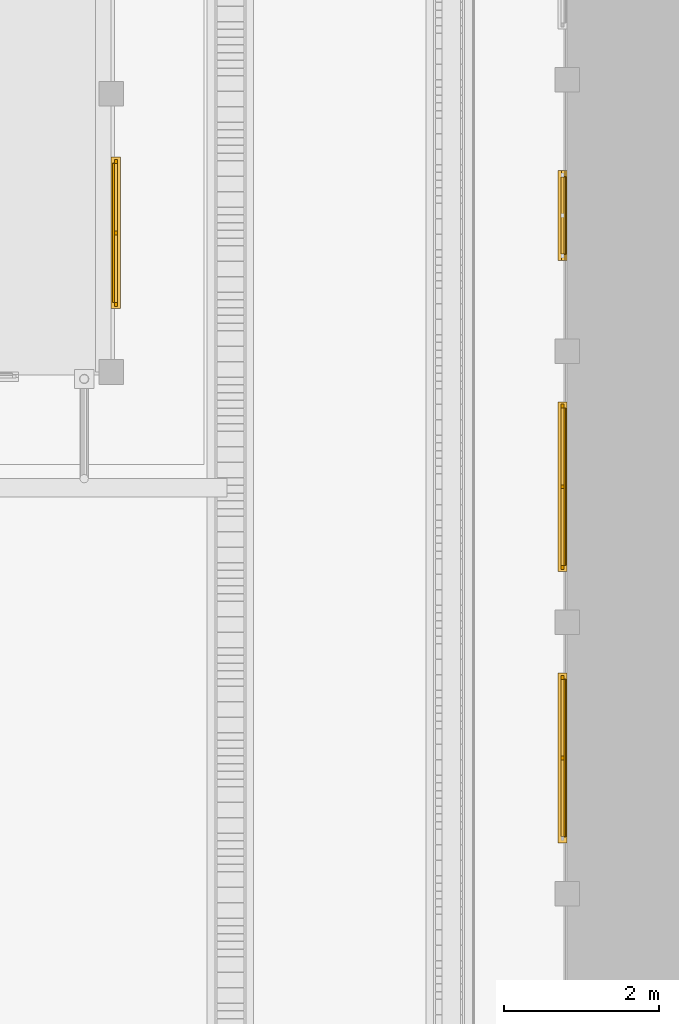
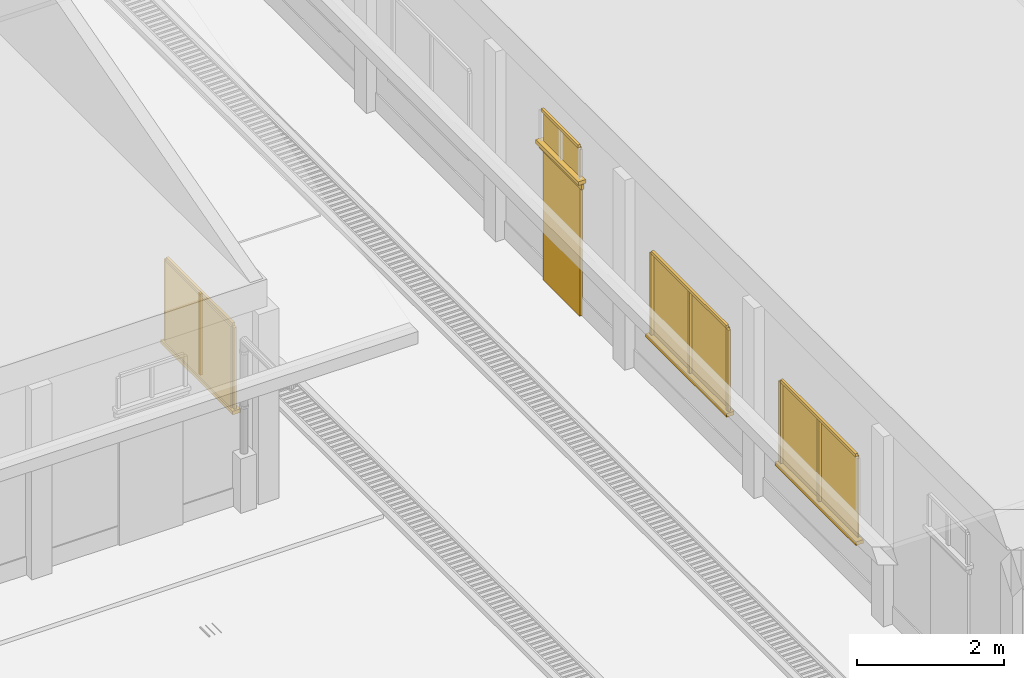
# One storey, part 61 of 151: 20 windows, 2 doors.
"""IFC2X3 building model written with IfcOpenShell, lengths in metres."""

from ifc_helpers import new_model, si_unit, origin, origin_with_axes, place, context, subcontext, project, spatial, faceted_brep, element, save


model = new_model("IFC2X3")

# Units and contexts
model_context = context("Model", 3, precision=1e-05, world=origin_with_axes())
body_context = subcontext(model_context, "Body", "Model", "MODEL_VIEW")
ifc_project = project(units=[si_unit("LENGTHUNIT", "METRE"), si_unit("AREAUNIT", "SQUARE_METRE"), si_unit("VOLUMEUNIT", "CUBIC_METRE"), si_unit("PLANEANGLEUNIT", "RADIAN")], contexts=[model_context])

# Site, building, storey
site_placement = place(None, origin_with_axes())
site = spatial("IfcSite", under=ifc_project, at=site_placement, Name="Predio Los Mangos - Morales, San Martín", CompositionType="ELEMENT")
building_placement = place(site_placement, origin())
building = spatial("IfcBuilding", under=site, at=building_placement, Name="Hogar de Refugio Temporal", CompositionType="ELEMENT")
storey_placement = place(building_placement, origin())
storey = spatial("IfcBuildingStorey", under=building, at=storey_placement, Name="NIVEL 1 (NPT +0.00)", CompositionType="ELEMENT", Elevation=0.0)

# Windows
window_1_placement = place(storey_placement, origin())
element("IfcWindow", 1, at=window_1_placement, inside=storey, Name="E-08_vg0_vid", ObjectType="Ventana", context=body_context, shape_type="Brep", body=[
    faceted_brep([(49.82, 117.9, 1.05), (49.82, 119.7, 1.05), (49.84, 119.7, 1.05), (49.84, 117.9, 1.05), (49.82, 117.9, 2.4), (49.84, 117.9, 2.4), (49.84, 119.7, 2.4), (49.82, 119.7, 2.4)], [[[0, 1, 2, 3]], [[4, 5, 6, 7]], [[0, 3, 5, 4]], [[3, 2, 6, 5]], [[2, 1, 7, 6]], [[1, 0, 4, 7]]]),
])
window_2_placement = place(storey_placement, origin())
element("IfcWindow", 2, at=window_2_placement, inside=storey, Name="E-08_vg0_m", ObjectType="Ventana", context=body_context, shape_type="Brep", body=[
    faceted_brep([(49.84, 117.85, 1.05), (49.84, 117.9, 1.05), (49.88, 117.9, 1.05), (49.88, 117.85, 1.05), (49.84, 117.85, 2.4), (49.88, 117.85, 2.4), (49.88, 117.9, 2.4), (49.84, 117.9, 2.4)], [[[0, 1, 2, 3]], [[4, 5, 6, 7]], [[0, 3, 5, 4]], [[3, 2, 6, 5]], [[2, 1, 7, 6]], [[1, 0, 4, 7]]]),
])
window_3_placement = place(storey_placement, origin())
element("IfcWindow", 3, at=window_3_placement, inside=storey, Name="E-08_vg0_m", ObjectType="Ventana", context=body_context, shape_type="Brep", body=[
    faceted_brep([(49.84, 119.7, 1.05), (49.84, 119.75, 1.05), (49.88, 119.75, 1.05), (49.88, 119.7, 1.05), (49.84, 119.7, 2.4), (49.88, 119.7, 2.4), (49.88, 119.75, 2.4), (49.84, 119.75, 2.4)], [[[0, 1, 2, 3]], [[4, 5, 6, 7]], [[0, 3, 5, 4]], [[3, 2, 6, 5]], [[2, 1, 7, 6]], [[1, 0, 4, 7]]]),
])
window_4_placement = place(storey_placement, origin())
element("IfcWindow", 4, at=window_4_placement, inside=storey, Name="E-08_vg0_m", ObjectType="Ventana", context=body_context, shape_type="Brep", body=[
    faceted_brep([(49.84, 117.9, 2.4), (49.84, 119.7, 2.4), (49.88, 119.7, 2.4), (49.88, 117.9, 2.4), (49.84, 117.9, 2.45), (49.88, 117.9, 2.45), (49.88, 119.7, 2.45), (49.84, 119.7, 2.45)], [[[0, 1, 2, 3]], [[4, 5, 6, 7]], [[0, 3, 5, 4]], [[3, 2, 6, 5]], [[2, 1, 7, 6]], [[1, 0, 4, 7]]]),
])
window_5_placement = place(storey_placement, origin())
element("IfcWindow", 5, at=window_5_placement, inside=storey, Name="E-08_vg0_m", ObjectType="Ventana", context=body_context, shape_type="Brep", body=[
    faceted_brep([(49.84, 118.775, 1.05), (49.84, 118.825, 1.05), (49.88, 118.825, 1.05), (49.88, 118.775, 1.05), (49.84, 118.775, 2.4), (49.88, 118.775, 2.4), (49.88, 118.825, 2.4), (49.84, 118.825, 2.4)], [[[0, 1, 2, 3]], [[4, 5, 6, 7]], [[0, 3, 5, 4]], [[3, 2, 6, 5]], [[2, 1, 7, 6]], [[1, 0, 4, 7]]]),
])
window_6_placement = place(storey_placement, origin())
element("IfcWindow", 6, at=window_6_placement, inside=storey, Name="E-08_vg0_alf", ObjectType="Ventana", context=body_context, shape_type="Brep", body=[
    faceted_brep([(49.8, 117.82, 0.99), (49.8, 119.78, 0.99), (49.92, 119.78, 0.99), (49.92, 117.82, 0.99), (49.8, 117.82, 1.05), (49.92, 117.82, 1.05), (49.92, 119.78, 1.05), (49.8, 119.78, 1.05)], [[[0, 1, 2, 3]], [[4, 5, 6, 7]], [[0, 3, 5, 4]], [[3, 2, 6, 5]], [[2, 1, 7, 6]], [[1, 0, 4, 7]]]),
])
window_7_placement = place(storey_placement, origin())
element("IfcWindow", 7, at=window_7_placement, inside=storey, Name="E-07_v5_vid", ObjectType="Ventana", context=body_context, shape_type="Brep", body=[
    faceted_brep([(55.66, 110.9871, 1.05), (55.66, 113.0229, 1.05), (55.68, 113.0229, 1.05), (55.68, 110.9871, 1.05), (55.66, 110.9871, 2.4), (55.68, 110.9871, 2.4), (55.68, 113.0229, 2.4), (55.66, 113.0229, 2.4)], [[[0, 1, 2, 3]], [[4, 5, 6, 7]], [[0, 3, 5, 4]], [[3, 2, 6, 5]], [[2, 1, 7, 6]], [[1, 0, 4, 7]]]),
])
window_8_placement = place(storey_placement, origin())
element("IfcWindow", 8, at=window_8_placement, inside=storey, Name="E-07_v5_m", ObjectType="Ventana", context=body_context, shape_type="Brep", body=[
    faceted_brep([(55.62, 113.0229, 1.05), (55.62, 113.0729, 1.05), (55.66, 113.0729, 1.05), (55.66, 113.0229, 1.05), (55.62, 113.0229, 2.4), (55.66, 113.0229, 2.4), (55.66, 113.0729, 2.4), (55.62, 113.0729, 2.4)], [[[0, 1, 2, 3]], [[4, 5, 6, 7]], [[0, 3, 5, 4]], [[3, 2, 6, 5]], [[2, 1, 7, 6]], [[1, 0, 4, 7]]]),
])
window_9_placement = place(storey_placement, origin())
element("IfcWindow", 9, at=window_9_placement, inside=storey, Name="E-07_v5_m", ObjectType="Ventana", context=body_context, shape_type="Brep", body=[
    faceted_brep([(55.62, 110.9871, 2.4), (55.62, 113.0229, 2.4), (55.66, 113.0229, 2.4), (55.66, 110.9871, 2.4), (55.62, 110.9871, 2.45), (55.66, 110.9871, 2.45), (55.66, 113.0229, 2.45), (55.62, 113.0229, 2.45)], [[[0, 1, 2, 3]], [[4, 5, 6, 7]], [[0, 3, 5, 4]], [[3, 2, 6, 5]], [[2, 1, 7, 6]], [[1, 0, 4, 7]]]),
])
window_10_placement = place(storey_placement, origin())
element("IfcWindow", 10, at=window_10_placement, inside=storey, Name="E-07_v5_m", ObjectType="Ventana", context=body_context, shape_type="Brep", body=[
    faceted_brep([(55.62, 111.98, 1.05), (55.62, 112.03, 1.05), (55.66, 112.03, 1.05), (55.66, 111.98, 1.05), (55.62, 111.98, 2.4), (55.66, 111.98, 2.4), (55.66, 112.03, 2.4), (55.62, 112.03, 2.4)], [[[0, 1, 2, 3]], [[4, 5, 6, 7]], [[0, 3, 5, 4]], [[3, 2, 6, 5]], [[2, 1, 7, 6]], [[1, 0, 4, 7]]]),
])
window_11_placement = place(storey_placement, origin())
element("IfcWindow", 11, at=window_11_placement, inside=storey, Name="E-07_v5_alf", ObjectType="Ventana", context=body_context, shape_type="Brep", body=[
    faceted_brep([(55.7, 110.9071, 0.99), (55.7, 113.1029, 0.99), (55.58, 113.1029, 0.99), (55.58, 110.9071, 0.99), (55.7, 110.9071, 1.05), (55.58, 110.9071, 1.05), (55.58, 113.1029, 1.05), (55.7, 113.1029, 1.05)], [[[0, 1, 2, 3]], [[4, 5, 6, 7]], [[0, 3, 5, 4]], [[3, 2, 6, 5]], [[2, 1, 7, 6]], [[1, 0, 4, 7]]]),
])
window_12_placement = place(storey_placement, origin())
element("IfcWindow", 12, at=window_12_placement, inside=storey, Name="E-07_v6_vid", ObjectType="Ventana", context=body_context, shape_type="Brep", body=[
    faceted_brep([(55.66, 114.4971, 1.05), (55.66, 116.5329, 1.05), (55.68, 116.5329, 1.05), (55.68, 114.4971, 1.05), (55.66, 114.4971, 2.4), (55.68, 114.4971, 2.4), (55.68, 116.5329, 2.4), (55.66, 116.5329, 2.4)], [[[0, 1, 2, 3]], [[4, 5, 6, 7]], [[0, 3, 5, 4]], [[3, 2, 6, 5]], [[2, 1, 7, 6]], [[1, 0, 4, 7]]]),
])
window_13_placement = place(storey_placement, origin())
element("IfcWindow", 13, at=window_13_placement, inside=storey, Name="E-07_v6_m", ObjectType="Ventana", context=body_context, shape_type="Brep", body=[
    faceted_brep([(55.62, 114.4471, 1.05), (55.62, 114.4971, 1.05), (55.66, 114.4971, 1.05), (55.66, 114.4471, 1.05), (55.62, 114.4471, 2.4), (55.66, 114.4471, 2.4), (55.66, 114.4971, 2.4), (55.62, 114.4971, 2.4)], [[[0, 1, 2, 3]], [[4, 5, 6, 7]], [[0, 3, 5, 4]], [[3, 2, 6, 5]], [[2, 1, 7, 6]], [[1, 0, 4, 7]]]),
])
window_14_placement = place(storey_placement, origin())
element("IfcWindow", 14, at=window_14_placement, inside=storey, Name="E-07_v6_m", ObjectType="Ventana", context=body_context, shape_type="Brep", body=[
    faceted_brep([(55.62, 116.5329, 1.05), (55.62, 116.5829, 1.05), (55.66, 116.5829, 1.05), (55.66, 116.5329, 1.05), (55.62, 116.5329, 2.4), (55.66, 116.5329, 2.4), (55.66, 116.5829, 2.4), (55.62, 116.5829, 2.4)], [[[0, 1, 2, 3]], [[4, 5, 6, 7]], [[0, 3, 5, 4]], [[3, 2, 6, 5]], [[2, 1, 7, 6]], [[1, 0, 4, 7]]]),
])
window_15_placement = place(storey_placement, origin())
element("IfcWindow", 15, at=window_15_placement, inside=storey, Name="E-07_v6_m", ObjectType="Ventana", context=body_context, shape_type="Brep", body=[
    faceted_brep([(55.62, 114.4971, 2.4), (55.62, 116.5329, 2.4), (55.66, 116.5329, 2.4), (55.66, 114.4971, 2.4), (55.62, 114.4971, 2.45), (55.66, 114.4971, 2.45), (55.66, 116.5329, 2.45), (55.62, 116.5329, 2.45)], [[[0, 1, 2, 3]], [[4, 5, 6, 7]], [[0, 3, 5, 4]], [[3, 2, 6, 5]], [[2, 1, 7, 6]], [[1, 0, 4, 7]]]),
])
window_16_placement = place(storey_placement, origin())
element("IfcWindow", 16, at=window_16_placement, inside=storey, Name="E-07_v6_m", ObjectType="Ventana", context=body_context, shape_type="Brep", body=[
    faceted_brep([(55.62, 115.49, 1.05), (55.62, 115.54, 1.05), (55.66, 115.54, 1.05), (55.66, 115.49, 1.05), (55.62, 115.49, 2.4), (55.66, 115.49, 2.4), (55.66, 115.54, 2.4), (55.62, 115.54, 2.4)], [[[0, 1, 2, 3]], [[4, 5, 6, 7]], [[0, 3, 5, 4]], [[3, 2, 6, 5]], [[2, 1, 7, 6]], [[1, 0, 4, 7]]]),
])
window_17_placement = place(storey_placement, origin())
element("IfcWindow", 17, at=window_17_placement, inside=storey, Name="E-07_v6_alf", ObjectType="Ventana", context=body_context, shape_type="Brep", body=[
    faceted_brep([(55.7, 114.4171, 0.99), (55.7, 116.6129, 0.99), (55.58, 116.6129, 0.99), (55.58, 114.4171, 0.99), (55.7, 114.4171, 1.05), (55.58, 114.4171, 1.05), (55.58, 116.6129, 1.05), (55.7, 116.6129, 1.05)], [[[0, 1, 2, 3]], [[4, 5, 6, 7]], [[0, 3, 5, 4]], [[3, 2, 6, 5]], [[2, 1, 7, 6]], [[1, 0, 4, 7]]]),
])

# Doors
door_1_placement = place(storey_placement, origin())
element("IfcDoor", 18, at=door_1_placement, inside=storey, Name="E-07_p7", ObjectType="Puerta", context=body_context, shape_type="Brep", body=[
    faceted_brep([(55.65, 118.525, 0.15), (55.65, 119.525, 0.15), (55.69, 119.525, 0.15), (55.69, 118.525, 0.15), (55.65, 118.525, 2.3), (55.69, 118.525, 2.3), (55.69, 119.525, 2.3), (55.65, 119.525, 2.3)], [[[0, 1, 2, 3]], [[4, 5, 6, 7]], [[0, 3, 5, 4]], [[3, 2, 6, 5]], [[2, 1, 7, 6]], [[1, 0, 4, 7]]]),
])
door_2_placement = place(storey_placement, origin())
element("IfcDoor", 19, at=door_2_placement, inside=storey, Name="E-07_p7_marco", ObjectType="Puerta", context=body_context, shape_type="Brep", body=[
    faceted_brep([(55.63, 118.445, 2.3), (55.63, 119.605, 2.3), (55.67, 119.605, 2.3), (55.67, 118.445, 2.3), (55.63, 118.445, 2.38), (55.67, 118.445, 2.38), (55.67, 119.605, 2.38), (55.63, 119.605, 2.38)], [[[0, 1, 2, 3]], [[4, 5, 6, 7]], [[0, 3, 5, 4]], [[3, 2, 6, 5]], [[2, 1, 7, 6]], [[1, 0, 4, 7]]]),
])

# Windows
window_18_placement = place(storey_placement, origin())
element("IfcWindow", 20, at=window_18_placement, inside=storey, Name="E-07_vt7_vid", ObjectType="Ventana", context=body_context, shape_type="Brep", body=[
    faceted_brep([(55.66, 118.525, 2.45), (55.66, 119.525, 2.45), (55.68, 119.525, 2.45), (55.68, 118.525, 2.45), (55.66, 118.525, 2.95), (55.68, 118.525, 2.95), (55.68, 119.525, 2.95), (55.66, 119.525, 2.95)], [[[0, 1, 2, 3]], [[4, 5, 6, 7]], [[0, 3, 5, 4]], [[3, 2, 6, 5]], [[2, 1, 7, 6]], [[1, 0, 4, 7]]]),
])
window_19_placement = place(storey_placement, origin())
element("IfcWindow", 21, at=window_19_placement, inside=storey, Name="E-07_vt7_m", ObjectType="Ventana", context=body_context, shape_type="Brep", body=[
    faceted_brep([(55.62, 118.525, 2.95), (55.62, 119.525, 2.95), (55.66, 119.525, 2.95), (55.66, 118.525, 2.95), (55.62, 118.525, 3.0), (55.66, 118.525, 3.0), (55.66, 119.525, 3.0), (55.62, 119.525, 3.0)], [[[0, 1, 2, 3]], [[4, 5, 6, 7]], [[0, 3, 5, 4]], [[3, 2, 6, 5]], [[2, 1, 7, 6]], [[1, 0, 4, 7]]]),
])
window_20_placement = place(storey_placement, origin())
element("IfcWindow", 22, at=window_20_placement, inside=storey, Name="E-07_vt7_alf", ObjectType="Ventana", context=body_context, shape_type="Brep", body=[
    faceted_brep([(55.7, 118.445, 2.39), (55.7, 119.605, 2.39), (55.58, 119.605, 2.39), (55.58, 118.445, 2.39), (55.7, 118.445, 2.45), (55.58, 118.445, 2.45), (55.58, 119.605, 2.45), (55.7, 119.605, 2.45)], [[[0, 1, 2, 3]], [[4, 5, 6, 7]], [[0, 3, 5, 4]], [[3, 2, 6, 5]], [[2, 1, 7, 6]], [[1, 0, 4, 7]]]),
])

save(model, "model.ifc")
